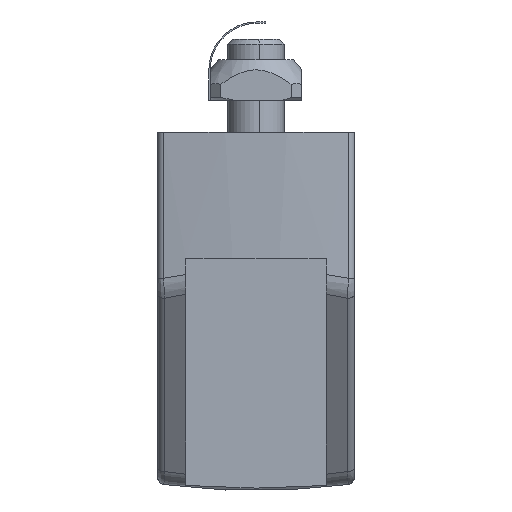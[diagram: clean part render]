
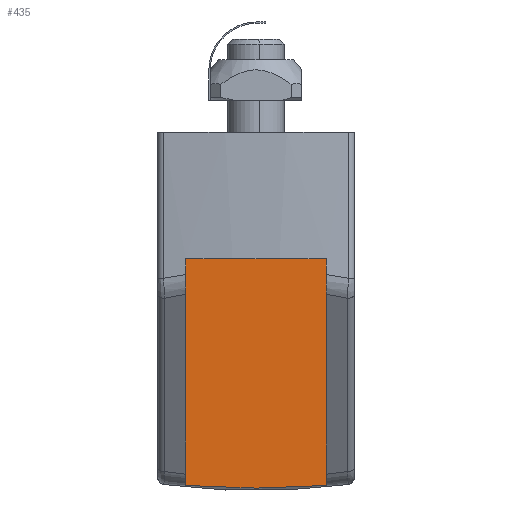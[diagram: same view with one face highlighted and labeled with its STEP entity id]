
A CAD part, front view. The second image highlights one B-rep face of the part: STEP entity #435.
In plain terms, the highlighted planar face has unit normal (0, -1, 0).
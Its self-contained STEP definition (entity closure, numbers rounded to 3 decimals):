
#40 = CARTESIAN_POINT ( 'NONE',  ( -12.322, -81.306, -21.3 ) ) ;
#435 = ADVANCED_FACE ( 'NONE', ( #5640 ), #2576, .T. ) ;
#487 = CARTESIAN_POINT ( 'NONE',  ( -14.365, -81.306, 11.104 ) ) ;
#809 = ORIENTED_EDGE ( 'NONE', *, *, #7278, .F. ) ;
#1031 = DIRECTION ( 'NONE',  ( 0., 0., 1. ) ) ;
#1317 = VERTEX_POINT ( 'NONE', #487 ) ;
#1366 = VERTEX_POINT ( 'NONE', #6841 ) ;
#1423 = CARTESIAN_POINT ( 'NONE',  ( 0.537, -81.306, -21.443 ) ) ;
#1613 = CARTESIAN_POINT ( 'NONE',  ( -9.54, -81.306, -21.433 ) ) ;
#1886 = DIRECTION ( 'NONE',  ( 0., -1., 0. ) ) ;
#2145 = CARTESIAN_POINT ( 'NONE',  ( -0.08, -81.306, -21.464 ) ) ;
#2198 = CARTESIAN_POINT ( 'NONE',  ( -9.378, -81.306, -21.439 ) ) ;
#2229 = EDGE_CURVE ( 'NONE', #4116, #1317, #2838, .T. ) ;
#2576 = PLANE ( 'NONE',  #7731 ) ;
#2627 = EDGE_LOOP ( 'NONE', ( #7671, #6118, #7341, #809 ) ) ;
#2766 = CARTESIAN_POINT ( 'NONE',  ( -14.365, -81.306, -21.152 ) ) ;
#2817 = LINE ( 'NONE', #2766, #8189 ) ;
#2838 = LINE ( 'NONE', #8672, #6772 ) ;
#2947 = CARTESIAN_POINT ( 'NONE',  ( -10.848, -81.306, -21.377 ) ) ;
#3051 = CARTESIAN_POINT ( 'NONE',  ( -9.46, -81.306, -21.436 ) ) ;
#3662 = CARTESIAN_POINT ( 'NONE',  ( -0.803, -81.306, -21.486 ) ) ;
#3722 = DIRECTION ( 'NONE',  ( 0., 0., 1. ) ) ;
#3815 = EDGE_CURVE ( 'NONE', #4985, #4116, #8398, .T. ) ;
#4116 = VERTEX_POINT ( 'NONE', #8156 ) ;
#4445 = CARTESIAN_POINT ( 'NONE',  ( 0.586, -81.306, -21.441 ) ) ;
#4491 = CARTESIAN_POINT ( 'NONE',  ( 4.02, -81.306, -21.28 ) ) ;
#4594 = CARTESIAN_POINT ( 'NONE',  ( -9.728, -81.306, -21.425 ) ) ;
#4599 = CARTESIAN_POINT ( 'NONE',  ( 5.635, -81.306, -21.152 ) ) ;
#4643 = CARTESIAN_POINT ( 'NONE',  ( -9.406, -81.306, -21.438 ) ) ;
#4985 = VERTEX_POINT ( 'NONE', #5853 ) ;
#5176 = CARTESIAN_POINT ( 'NONE',  ( 0.434, -81.306, -21.447 ) ) ;
#5320 = CARTESIAN_POINT ( 'NONE',  ( -2.255, -81.306, -21.519 ) ) ;
#5640 = FACE_OUTER_BOUND ( 'NONE', #2627, .T. ) ;
#5731 = CARTESIAN_POINT ( 'NONE',  ( -4.365, -81.306, 11.757 ) ) ;
#5853 = CARTESIAN_POINT ( 'NONE',  ( 5.635, -81.306, -21.152 ) ) ;
#5910 = CARTESIAN_POINT ( 'NONE',  ( -5.193, -81.306, -21.531 ) ) ;
#5962 = CARTESIAN_POINT ( 'NONE',  ( -10.103, -81.306, -21.41 ) ) ;
#6013 = CARTESIAN_POINT ( 'NONE',  ( -13.555, -81.306, -21.216 ) ) ;
#6066 = CARTESIAN_POINT ( 'NONE',  ( -8.528, -81.306, -21.47 ) ) ;
#6112 = CARTESIAN_POINT ( 'NONE',  ( -14.365, -81.306, -21.152 ) ) ;
#6118 = ORIENTED_EDGE ( 'NONE', *, *, #3815, .T. ) ;
#6356 = DIRECTION ( 'NONE',  ( 0., 0., -1. ) ) ;
#6702 = VECTOR ( 'NONE', #1031, 1000. ) ;
#6772 = VECTOR ( 'NONE', #7960, 1000. ) ;
#6841 = CARTESIAN_POINT ( 'NONE',  ( -14.365, -81.306, -21.152 ) ) ;
#6931 = EDGE_CURVE ( 'NONE', #1366, #4985, #7133, .T. ) ;
#7133 = B_SPLINE_CURVE_WITH_KNOTS ( 'NONE', 3,
 ( #6112, #6013, #40, #2947, #5962, #4594, #1613, #3051, #4643, #2198, #6066, #9030, #7613, #5910, #8868, #5320, #3662, #2145, #8920, #5176, #1423, #4445, #7426, #4491, #7474 ),
 .UNSPECIFIED., .F., .F.,
 ( 4, 1, 1, 1, 1, 1, 2, 2, 2, 2, 1, 1, 1, 1, 2, 2, 4 ),
 ( 0., 0.125, 0.187, 0.219, 0.234, 0.242, 0.246, 0.25, 0.375, 0.5, 0.625, 0.687, 0.719, 0.734, 0.742, 0.75, 1. ),
 .UNSPECIFIED. ) ;
#7278 = EDGE_CURVE ( 'NONE', #1366, #1317, #2817, .T. ) ;
#7341 = ORIENTED_EDGE ( 'NONE', *, *, #2229, .T. ) ;
#7426 = CARTESIAN_POINT ( 'NONE',  ( 2.355, -81.306, -21.375 ) ) ;
#7474 = CARTESIAN_POINT ( 'NONE',  ( 5.635, -81.306, -21.152 ) ) ;
#7613 = CARTESIAN_POINT ( 'NONE',  ( -6.033, -81.306, -21.523 ) ) ;
#7671 = ORIENTED_EDGE ( 'NONE', *, *, #6931, .T. ) ;
#7731 = AXIS2_PLACEMENT_3D ( 'NONE', #5731, #1886, #6356 ) ;
#7960 = DIRECTION ( 'NONE',  ( -1., 0., 0. ) ) ;
#8156 = CARTESIAN_POINT ( 'NONE',  ( 5.635, -81.306, 11.104 ) ) ;
#8189 = VECTOR ( 'NONE', #3722, 1000. ) ;
#8398 = LINE ( 'NONE', #4599, #6702 ) ;
#8672 = CARTESIAN_POINT ( 'NONE',  ( 5.635, -81.306, 11.104 ) ) ;
#8868 = CARTESIAN_POINT ( 'NONE',  ( -3.51, -81.306, -21.531 ) ) ;
#8920 = CARTESIAN_POINT ( 'NONE',  ( 0.28, -81.306, -21.452 ) ) ;
#9030 = CARTESIAN_POINT ( 'NONE',  ( -7.7, -81.306, -21.493 ) ) ;
